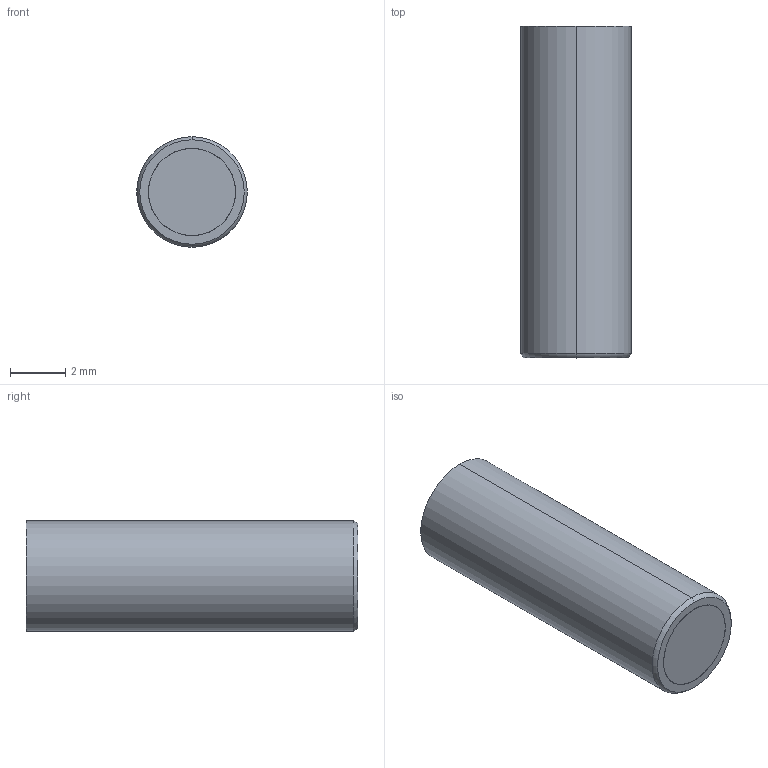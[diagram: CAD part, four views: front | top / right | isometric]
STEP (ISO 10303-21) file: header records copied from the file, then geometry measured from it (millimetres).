
FILE_DESCRIPTION (( 'STEP AP214' ), '1' );
FILE_NAME ('FA042200.STEP', '2013-06-28T07:11:32', ( '' ), ( '' ), 'SwSTEP 2.0', 'SolidWorks 2011', '' );
FILE_SCHEMA (( 'AUTOMOTIVE_DESIGN' ));
Length unit declared in the file: millimetre
Products named in the file (6): FA 042200-3; 9FA 042200; FA 042200-1; FA 042200-2; IA 2275SF; FA042200
Assembly tree (5 placements, depth 2):
  FA042200
    FA 042200-3
    IA 2275SF
    FA 042200-1
    9FA 042200
    FA 042200-2
Bounding box: 4 x 12 x 4 mm (x, y, z)
Volume: 127.3 mm3; surface area: 501.6 mm2
Topology: 5 solids, 5 shells, 82 faces, 168 edges, 105 vertices
Faces by surface type: cylinder 34, plane 28, cone 14, bspline 4, torus 2
Entity records: 4916 total; most frequent: CARTESIAN_POINT 2811, DIRECTION 420, ORIENTED_EDGE 332, AXIS2_PLACEMENT_3D 176, EDGE_CURVE 166, VERTEX_POINT 105, EDGE_LOOP 97, CIRCLE 90
